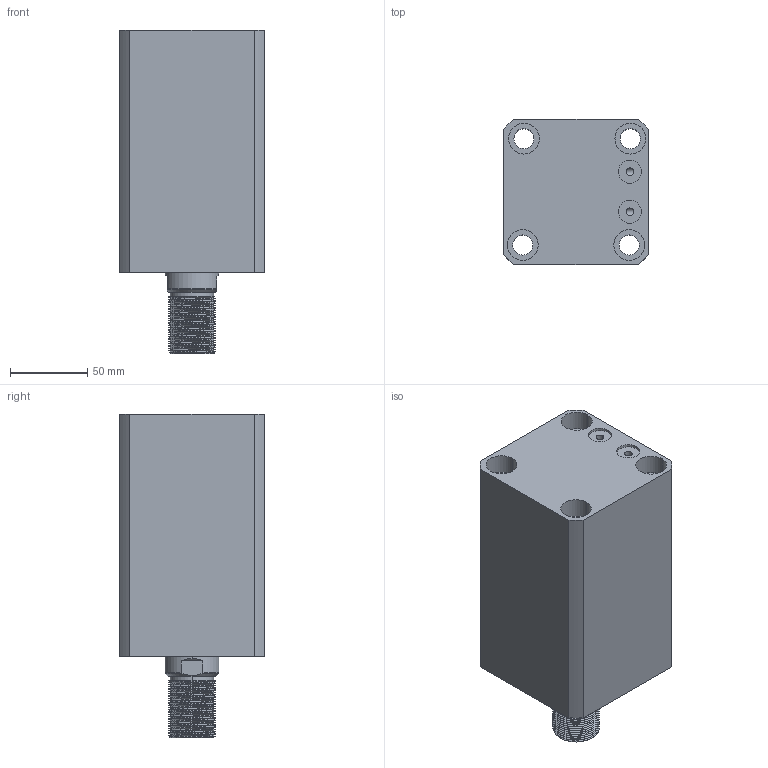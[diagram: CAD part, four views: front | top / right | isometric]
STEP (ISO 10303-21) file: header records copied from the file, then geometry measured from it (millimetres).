
FILE_DESCRIPTION (( 'STEP AP214' ), '1' );
FILE_NAME ('chtb-sdmb63x90w_asm.STEP', '2018-05-18T12:57:47', ( 'Windows' ), ( 'Microsoft' ), 'SwSTEP 2.0', 'SolidWorks 2015', '' );
FILE_SCHEMA (( 'AUTOMOTIVE_DESIGN' ));
Length unit declared in the file: millimetre
Products named in the file (4): CHTB-SDMB63X90NBT; CHTB63X90WHSG; CHTB-63QG; chtb-sdmb63x90w_asm
Assembly tree (3 placements, depth 2):
  chtb-sdmb63x90w_asm
    CHTB-63QG
    CHTB63X90WHSG
    CHTB-SDMB63X90NBT
Bounding box: 94 x 94 x 210 mm (x, y, z)
Volume: 1114263 mm3; surface area: 184000.9 mm2
Topology: 3 solids, 3 shells, 218 faces, 628 edges, 427 vertices
Faces by surface type: cylinder 156, plane 33, bspline 14, cone 9, torus 6
Entity records: 22278 total; most frequent: CARTESIAN_POINT 17042, ORIENTED_EDGE 1248, DIRECTION 869, EDGE_CURVE 624, VERTEX_POINT 427, AXIS2_PLACEMENT_3D 339, EDGE_LOOP 251, ADVANCED_FACE 218
